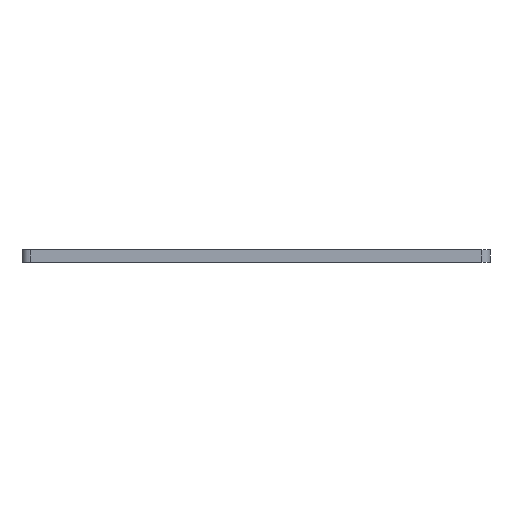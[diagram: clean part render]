
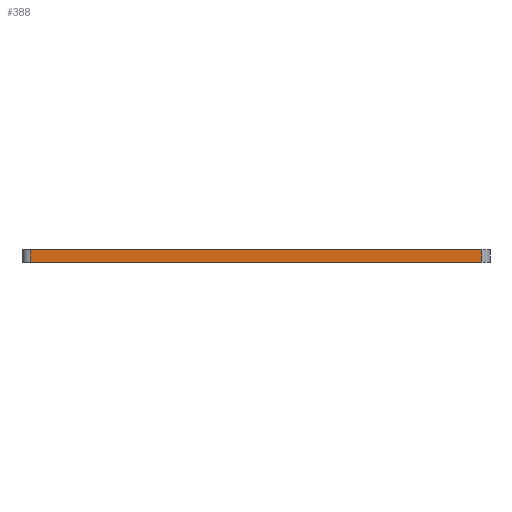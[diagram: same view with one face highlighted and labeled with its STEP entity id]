
A CAD part, front view. The second image highlights one B-rep face of the part: STEP entity #388.
In plain terms, the highlighted planar face has unit normal (0, -1, 0).
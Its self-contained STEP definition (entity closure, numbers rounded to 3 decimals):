
#25 = LINE ( 'NONE', #486, #660 ) ;
#31 = LINE ( 'NONE', #769, #504 ) ;
#48 = VERTEX_POINT ( 'NONE', #678 ) ;
#79 = DIRECTION ( 'NONE',  ( 0., 0., 1. ) ) ;
#114 = VECTOR ( 'NONE', #680, 1000. ) ;
#118 = DIRECTION ( 'NONE',  ( 0., 0., -1. ) ) ;
#133 = CARTESIAN_POINT ( 'NONE',  ( -160.037, -17.645, 4. ) ) ;
#142 = VERTEX_POINT ( 'NONE', #605 ) ;
#168 = ORIENTED_EDGE ( 'NONE', *, *, #725, .F. ) ;
#170 = AXIS2_PLACEMENT_3D ( 'NONE', #434, #447, #79 ) ;
#216 = VECTOR ( 'NONE', #118, 1000. ) ;
#254 = ORIENTED_EDGE ( 'NONE', *, *, #355, .T. ) ;
#355 = EDGE_CURVE ( 'NONE', #750, #142, #604, .T. ) ;
#357 = EDGE_LOOP ( 'NONE', ( #768, #718, #168, #254 ) ) ;
#363 = CARTESIAN_POINT ( 'NONE',  ( -19.037, -17.645, 4. ) ) ;
#374 = LINE ( 'NONE', #363, #216 ) ;
#388 = ADVANCED_FACE ( 'NONE', ( #589 ), #684, .F. ) ;
#416 = DIRECTION ( 'NONE',  ( 1., 0., 0. ) ) ;
#434 = CARTESIAN_POINT ( 'NONE',  ( 0., -17.645, 4. ) ) ;
#435 = VERTEX_POINT ( 'NONE', #450 ) ;
#447 = DIRECTION ( 'NONE',  ( 0., 1., 0. ) ) ;
#450 = CARTESIAN_POINT ( 'NONE',  ( -19.037, -17.645, 0. ) ) ;
#486 = CARTESIAN_POINT ( 'NONE',  ( 0., -17.645, 4. ) ) ;
#504 = VECTOR ( 'NONE', #416, 1000. ) ;
#550 = DIRECTION ( 'NONE',  ( 1., 0., 0. ) ) ;
#564 = EDGE_CURVE ( 'NONE', #142, #435, #31, .T. ) ;
#589 = FACE_OUTER_BOUND ( 'NONE', #357, .T. ) ;
#604 = LINE ( 'NONE', #752, #114 ) ;
#605 = CARTESIAN_POINT ( 'NONE',  ( -160.037, -17.645, 0. ) ) ;
#660 = VECTOR ( 'NONE', #550, 1000. ) ;
#678 = CARTESIAN_POINT ( 'NONE',  ( -19.037, -17.645, 4. ) ) ;
#680 = DIRECTION ( 'NONE',  ( 0., 0., -1. ) ) ;
#684 = PLANE ( 'NONE',  #170 ) ;
#689 = EDGE_CURVE ( 'NONE', #48, #435, #374, .T. ) ;
#718 = ORIENTED_EDGE ( 'NONE', *, *, #689, .F. ) ;
#725 = EDGE_CURVE ( 'NONE', #750, #48, #25, .T. ) ;
#750 = VERTEX_POINT ( 'NONE', #133 ) ;
#752 = CARTESIAN_POINT ( 'NONE',  ( -160.037, -17.645, 4. ) ) ;
#768 = ORIENTED_EDGE ( 'NONE', *, *, #564, .T. ) ;
#769 = CARTESIAN_POINT ( 'NONE',  ( 0., -17.645, 0. ) ) ;
